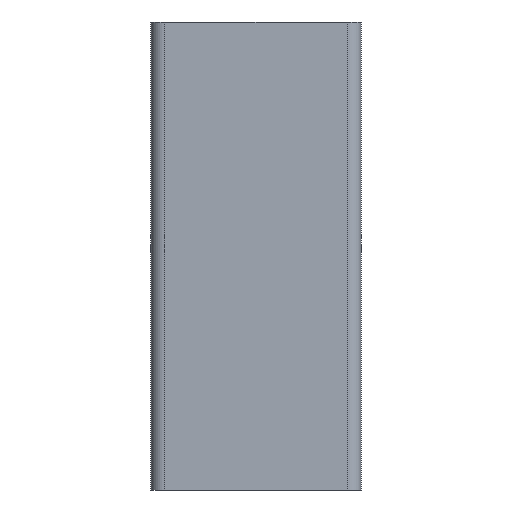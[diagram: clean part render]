
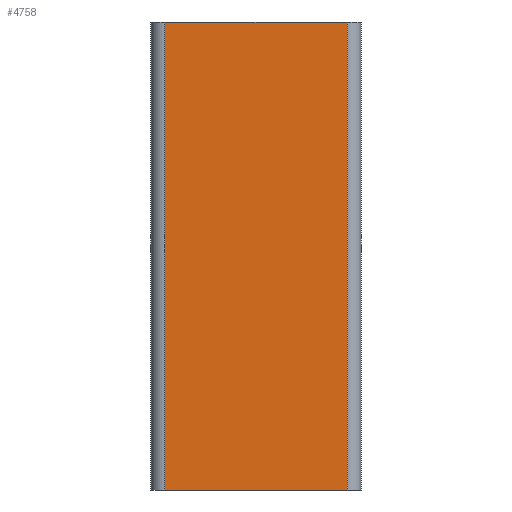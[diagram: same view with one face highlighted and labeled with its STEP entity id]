
A CAD part, left-side view. The second image highlights one B-rep face of the part: STEP entity #4758.
In plain terms, the highlighted planar face has unit normal (-1, 0, 0).
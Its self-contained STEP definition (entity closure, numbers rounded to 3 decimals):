
#32=PLANE('',#5294);
#164=FACE_OUTER_BOUND('',#428,.T.);
#428=EDGE_LOOP('',(#3685,#3686,#3687,#3688));
#690=LINE('',#7195,#1162);
#841=LINE('',#7775,#1313);
#916=LINE('',#8090,#1388);
#917=LINE('',#8092,#1389);
#1162=VECTOR('',#5660,1000.);
#1313=VECTOR('',#6109,1000.);
#1388=VECTOR('',#6370,1000.);
#1389=VECTOR('',#6373,1000.);
#1940=VERTEX_POINT('',#7192);
#1941=VERTEX_POINT('',#7194);
#2220=VERTEX_POINT('',#7772);
#2221=VERTEX_POINT('',#7774);
#2436=EDGE_CURVE('',#1940,#1941,#690,.T.);
#2735=EDGE_CURVE('',#2221,#2220,#841,.T.);
#2900=EDGE_CURVE('',#1940,#2221,#916,.T.);
#2901=EDGE_CURVE('',#1941,#2220,#917,.T.);
#3685=ORIENTED_EDGE('',*,*,#2735,.T.);
#3686=ORIENTED_EDGE('',*,*,#2901,.F.);
#3687=ORIENTED_EDGE('',*,*,#2436,.F.);
#3688=ORIENTED_EDGE('',*,*,#2900,.T.);
#4758=ADVANCED_FACE('',(#164),#32,.F.);
#5294=AXIS2_PLACEMENT_3D('',#8091,#6371,#6372);
#5660=DIRECTION('',(0.,-1.,0.));
#6109=DIRECTION('',(0.,-1.,0.));
#6370=DIRECTION('',(0.,0.,-1.));
#6371=DIRECTION('center_axis',(1.,0.,0.));
#6372=DIRECTION('ref_axis',(0.,1.,0.));
#6373=DIRECTION('',(0.,0.,-1.));
#7192=CARTESIAN_POINT('',(-0.112,41.991,199.867));
#7194=CARTESIAN_POINT('',(-0.112,2.991,199.867));
#7195=CARTESIAN_POINT('',(-0.112,41.991,199.867));
#7772=CARTESIAN_POINT('',(-0.112,2.991,99.867));
#7774=CARTESIAN_POINT('',(-0.112,41.991,99.867));
#7775=CARTESIAN_POINT('',(-0.112,41.991,99.867));
#8090=CARTESIAN_POINT('',(-0.112,41.991,199.867));
#8091=CARTESIAN_POINT('Origin',(-0.112,41.991,199.867));
#8092=CARTESIAN_POINT('',(-0.112,2.991,199.867));
